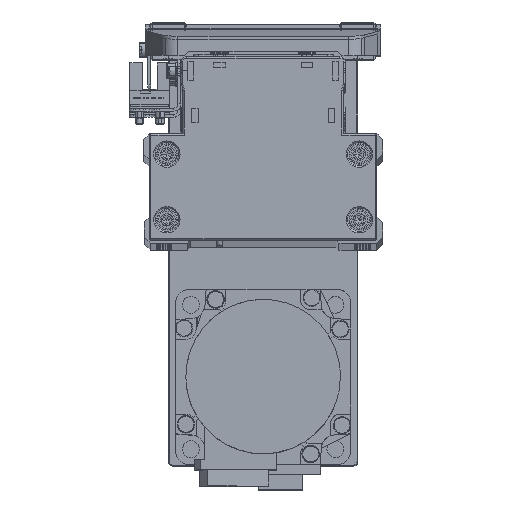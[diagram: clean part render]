
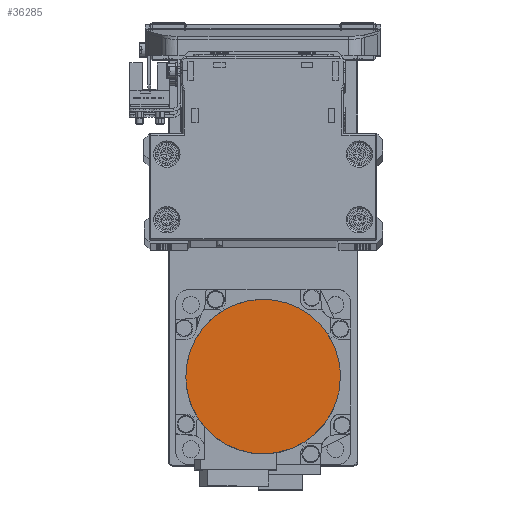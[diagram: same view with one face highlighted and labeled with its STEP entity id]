
A CAD part, top view. The second image highlights one B-rep face of the part: STEP entity #36285.
In plain terms, the highlighted planar face has unit normal (0, 0, 1) as drawn and (0, 0, -1) by its records, which use the part's own axes.
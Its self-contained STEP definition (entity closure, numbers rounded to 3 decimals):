
#123 = CARTESIAN_POINT ( 'NONE',  ( 25.652, 6.871, -88. ) ) ;
#308 = CARTESIAN_POINT ( 'NONE',  ( -26.5, 0., -88. ) ) ;
#333 = CARTESIAN_POINT ( 'NONE',  ( 1.734, 26.5, -88. ) ) ;
#514 = CARTESIAN_POINT ( 'NONE',  ( -8.539, -25.147, -88. ) ) ;
#542 = CARTESIAN_POINT ( 'NONE',  ( -25.147, 8.539, -88. ) ) ;
#727 = CARTESIAN_POINT ( 'NONE',  ( 21.07, -16.165, -88. ) ) ;
#2252 = DIRECTION ( 'NONE',  ( 1., 0., 0. ) ) ;
#3332 = CARTESIAN_POINT ( 'NONE',  ( 26.5, 0., -88. ) ) ;
#3545 = CARTESIAN_POINT ( 'NONE',  ( 8.539, 25.147, -88. ) ) ;
#3736 = CARTESIAN_POINT ( 'NONE',  ( -16.165, -21.07, -88. ) ) ;
#3761 = CARTESIAN_POINT ( 'NONE',  ( -21.07, 16.165, -88. ) ) ;
#3944 = CARTESIAN_POINT ( 'NONE',  ( 16.165, -21.07, -88. ) ) ;
#5465 = PLANE ( 'NONE',  #7734 ) ;
#6085 = B_SPLINE_CURVE_WITH_KNOTS ( 'NONE', 3,
 ( #308, #13394, #26474, #39563, #10170, #23251, #36343, #6951, #20047, #33133, #3736, #16821, #29895, #514, #13601, #26682, #39774, #10386, #23474, #36566, #7161, #20260, #33344, #3944, #17027, #30108, #727, #13818, #26898, #40001, #10600, #23681, #36774, #7372 ),
 .UNSPECIFIED., .F., .F.,
 ( 4, 2, 2, 2, 2, 2, 2, 2, 2, 2, 2, 2, 2, 2, 2, 2, 4 ),
 ( 0., 0.063, 0.125, 0.188, 0.25, 0.313, 0.375, 0.438, 0.5, 0.563, 0.625, 0.688, 0.75, 0.813, 0.875, 0.938, 1. ),
 .UNSPECIFIED. ) ;
#6164 = EDGE_CURVE ( 'NONE', #19209, #36142, #6085, .T. ) ;
#6761 = CARTESIAN_POINT ( 'NONE',  ( 16.165, 21.07, -88. ) ) ;
#6951 = CARTESIAN_POINT ( 'NONE',  ( -21.07, -16.165, -88. ) ) ;
#6974 = CARTESIAN_POINT ( 'NONE',  ( -16.165, 21.07, -88. ) ) ;
#7161 = CARTESIAN_POINT ( 'NONE',  ( 8.539, -25.147, -88. ) ) ;
#7372 = CARTESIAN_POINT ( 'NONE',  ( 26.5, 0., -88. ) ) ;
#7734 = AXIS2_PLACEMENT_3D ( 'NONE', #18551, #31629, #2252 ) ;
#9873 = EDGE_CURVE ( 'NONE', #36142, #19209, #24813, .T. ) ;
#9992 = CARTESIAN_POINT ( 'NONE',  ( 21.07, 16.165, -88. ) ) ;
#10170 = CARTESIAN_POINT ( 'NONE',  ( -25.147, -8.539, -88. ) ) ;
#10198 = CARTESIAN_POINT ( 'NONE',  ( -8.539, 25.147, -88. ) ) ;
#10386 = CARTESIAN_POINT ( 'NONE',  ( 1.734, -26.5, -88. ) ) ;
#10414 = CARTESIAN_POINT ( 'NONE',  ( -26.5, 0., -88. ) ) ;
#10600 = CARTESIAN_POINT ( 'NONE',  ( 25.652, -6.871, -88. ) ) ;
#13208 = CARTESIAN_POINT ( 'NONE',  ( 25.147, 8.539, -88. ) ) ;
#13394 = CARTESIAN_POINT ( 'NONE',  ( -26.5, -1.734, -88. ) ) ;
#13419 = CARTESIAN_POINT ( 'NONE',  ( -1.734, 26.5, -88. ) ) ;
#13601 = CARTESIAN_POINT ( 'NONE',  ( -6.871, -25.652, -88. ) ) ;
#13630 = CARTESIAN_POINT ( 'NONE',  ( -25.652, 6.871, -88. ) ) ;
#13818 = CARTESIAN_POINT ( 'NONE',  ( 22.998, -13.28, -88. ) ) ;
#16414 = CARTESIAN_POINT ( 'NONE',  ( 26.5, 1.734, -88. ) ) ;
#16638 = CARTESIAN_POINT ( 'NONE',  ( 6.871, 25.652, -88. ) ) ;
#16821 = CARTESIAN_POINT ( 'NONE',  ( -13.28, -22.998, -88. ) ) ;
#16846 = CARTESIAN_POINT ( 'NONE',  ( -22.998, 13.28, -88. ) ) ;
#17027 = CARTESIAN_POINT ( 'NONE',  ( 17.512, -19.965, -88. ) ) ;
#18551 = CARTESIAN_POINT ( 'NONE',  ( 0., 0., -88. ) ) ;
#19209 = VERTEX_POINT ( 'NONE', #34984 ) ;
#19845 = CARTESIAN_POINT ( 'NONE',  ( 13.28, 22.998, -88. ) ) ;
#20047 = CARTESIAN_POINT ( 'NONE',  ( -19.965, -17.512, -88. ) ) ;
#20074 = CARTESIAN_POINT ( 'NONE',  ( -17.512, 19.965, -88. ) ) ;
#20260 = CARTESIAN_POINT ( 'NONE',  ( 11.744, -23.819, -88. ) ) ;
#23069 = CARTESIAN_POINT ( 'NONE',  ( 19.965, 17.512, -88. ) ) ;
#23251 = CARTESIAN_POINT ( 'NONE',  ( -23.819, -11.744, -88. ) ) ;
#23282 = CARTESIAN_POINT ( 'NONE',  ( -11.744, 23.819, -88. ) ) ;
#23474 = CARTESIAN_POINT ( 'NONE',  ( 3.469, -26.329, -88. ) ) ;
#23681 = CARTESIAN_POINT ( 'NONE',  ( 26.329, -3.469, -88. ) ) ;
#23883 = ORIENTED_EDGE ( 'NONE', *, *, #6164, .F. ) ;
#24813 = B_SPLINE_CURVE_WITH_KNOTS ( 'NONE', 3,
 ( #3332, #16414, #29494, #123, #13208, #26291, #39379, #9992, #23069, #36153, #6761, #19845, #32939, #3545, #16638, #29712, #333, #13419, #26502, #39589, #10198, #23282, #36375, #6974, #20074, #33161, #3761, #16846, #29920, #542, #13630, #26710, #39808, #10414 ),
 .UNSPECIFIED., .F., .F.,
 ( 4, 2, 2, 2, 2, 2, 2, 2, 2, 2, 2, 2, 2, 2, 2, 2, 4 ),
 ( 0., 0.063, 0.125, 0.188, 0.25, 0.313, 0.375, 0.438, 0.5, 0.563, 0.625, 0.688, 0.75, 0.813, 0.875, 0.938, 1. ),
 .UNSPECIFIED. ) ;
#26291 = CARTESIAN_POINT ( 'NONE',  ( 23.819, 11.744, -88. ) ) ;
#26474 = CARTESIAN_POINT ( 'NONE',  ( -26.329, -3.469, -88. ) ) ;
#26502 = CARTESIAN_POINT ( 'NONE',  ( -3.469, 26.329, -88. ) ) ;
#26682 = CARTESIAN_POINT ( 'NONE',  ( -3.469, -26.329, -88. ) ) ;
#26710 = CARTESIAN_POINT ( 'NONE',  ( -26.329, 3.469, -88. ) ) ;
#26865 = ORIENTED_EDGE ( 'NONE', *, *, #9873, .F. ) ;
#26898 = CARTESIAN_POINT ( 'NONE',  ( 23.819, -11.744, -88. ) ) ;
#27353 = CARTESIAN_POINT ( 'NONE',  ( 26.5, 0., -88. ) ) ;
#29494 = CARTESIAN_POINT ( 'NONE',  ( 26.329, 3.469, -88. ) ) ;
#29712 = CARTESIAN_POINT ( 'NONE',  ( 3.469, 26.329, -88. ) ) ;
#29895 = CARTESIAN_POINT ( 'NONE',  ( -11.744, -23.819, -88. ) ) ;
#29920 = CARTESIAN_POINT ( 'NONE',  ( -23.819, 11.744, -88. ) ) ;
#30108 = CARTESIAN_POINT ( 'NONE',  ( 19.965, -17.512, -88. ) ) ;
#31629 = DIRECTION ( 'NONE',  ( 0., 0., 1. ) ) ;
#32939 = CARTESIAN_POINT ( 'NONE',  ( 11.744, 23.819, -88. ) ) ;
#33055 = EDGE_LOOP ( 'NONE', ( #26865, #23883 ) ) ;
#33133 = CARTESIAN_POINT ( 'NONE',  ( -17.512, -19.965, -88. ) ) ;
#33161 = CARTESIAN_POINT ( 'NONE',  ( -19.965, 17.512, -88. ) ) ;
#33344 = CARTESIAN_POINT ( 'NONE',  ( 13.28, -22.998, -88. ) ) ;
#34856 = FACE_OUTER_BOUND ( 'NONE', #33055, .T. ) ;
#34984 = CARTESIAN_POINT ( 'NONE',  ( -26.5, 0., -88. ) ) ;
#36142 = VERTEX_POINT ( 'NONE', #27353 ) ;
#36153 = CARTESIAN_POINT ( 'NONE',  ( 17.512, 19.965, -88. ) ) ;
#36285 = ADVANCED_FACE ( 'NONE', ( #34856 ), #5465, .F. ) ;
#36343 = CARTESIAN_POINT ( 'NONE',  ( -22.998, -13.28, -88. ) ) ;
#36375 = CARTESIAN_POINT ( 'NONE',  ( -13.28, 22.998, -88. ) ) ;
#36566 = CARTESIAN_POINT ( 'NONE',  ( 6.871, -25.652, -88. ) ) ;
#36774 = CARTESIAN_POINT ( 'NONE',  ( 26.5, -1.734, -88. ) ) ;
#39379 = CARTESIAN_POINT ( 'NONE',  ( 22.998, 13.28, -88. ) ) ;
#39563 = CARTESIAN_POINT ( 'NONE',  ( -25.652, -6.871, -88. ) ) ;
#39589 = CARTESIAN_POINT ( 'NONE',  ( -6.871, 25.652, -88. ) ) ;
#39774 = CARTESIAN_POINT ( 'NONE',  ( -1.734, -26.5, -88. ) ) ;
#39808 = CARTESIAN_POINT ( 'NONE',  ( -26.5, 1.734, -88. ) ) ;
#40001 = CARTESIAN_POINT ( 'NONE',  ( 25.147, -8.539, -88. ) ) ;
